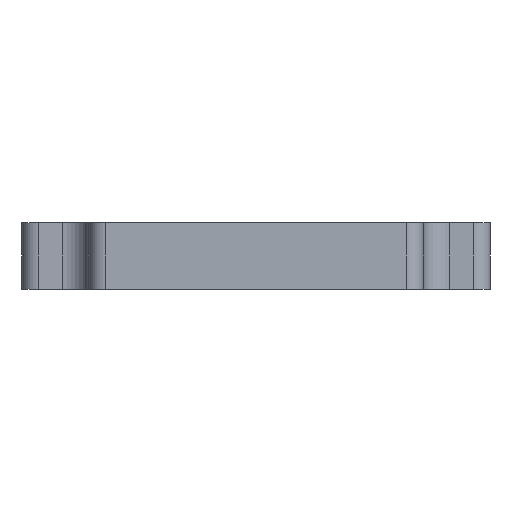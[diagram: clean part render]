
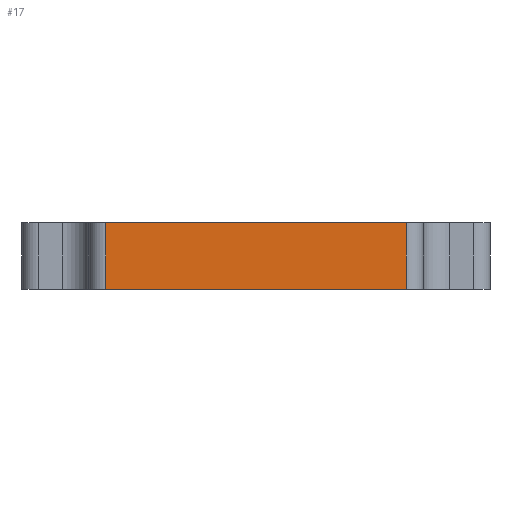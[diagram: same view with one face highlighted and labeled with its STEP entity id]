
A CAD part, left-side view. The second image highlights one B-rep face of the part: STEP entity #17.
In plain terms, the highlighted planar face has unit normal (-1, 0, 0).
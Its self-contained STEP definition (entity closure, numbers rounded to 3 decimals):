
#17 = ADVANCED_FACE('',(#18),#52,.F.);
#18 = FACE_BOUND('',#19,.F.);
#19 = EDGE_LOOP('',(#20,#30,#38,#46));
#20 = ORIENTED_EDGE('',*,*,#21,.T.);
#21 = EDGE_CURVE('',#22,#24,#26,.T.);
#22 = VERTEX_POINT('',#23);
#23 = CARTESIAN_POINT('',(-95.,9.,0.));
#24 = VERTEX_POINT('',#25);
#25 = CARTESIAN_POINT('',(-95.,9.,4.));
#26 = LINE('',#27,#28);
#27 = CARTESIAN_POINT('',(-95.,9.,0.));
#28 = VECTOR('',#29,1.);
#29 = DIRECTION('',(0.,0.,1.));
#30 = ORIENTED_EDGE('',*,*,#31,.T.);
#31 = EDGE_CURVE('',#24,#32,#34,.T.);
#32 = VERTEX_POINT('',#33);
#33 = CARTESIAN_POINT('',(-95.,-9.,4.));
#34 = LINE('',#35,#36);
#35 = CARTESIAN_POINT('',(-95.,9.,4.));
#36 = VECTOR('',#37,1.);
#37 = DIRECTION('',(0.,-1.,0.));
#38 = ORIENTED_EDGE('',*,*,#39,.F.);
#39 = EDGE_CURVE('',#40,#32,#42,.T.);
#40 = VERTEX_POINT('',#41);
#41 = CARTESIAN_POINT('',(-95.,-9.,0.));
#42 = LINE('',#43,#44);
#43 = CARTESIAN_POINT('',(-95.,-9.,0.));
#44 = VECTOR('',#45,1.);
#45 = DIRECTION('',(0.,0.,1.));
#46 = ORIENTED_EDGE('',*,*,#47,.F.);
#47 = EDGE_CURVE('',#22,#40,#48,.T.);
#48 = LINE('',#49,#50);
#49 = CARTESIAN_POINT('',(-95.,9.,0.));
#50 = VECTOR('',#51,1.);
#51 = DIRECTION('',(0.,-1.,0.));
#52 = PLANE('',#53);
#53 = AXIS2_PLACEMENT_3D('',#54,#55,#56);
#54 = CARTESIAN_POINT('',(-95.,9.,0.));
#55 = DIRECTION('',(1.,0.,-0.));
#56 = DIRECTION('',(0.,-1.,0.));
